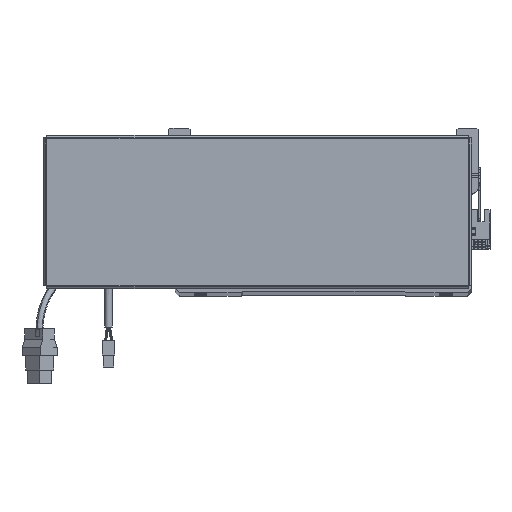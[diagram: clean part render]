
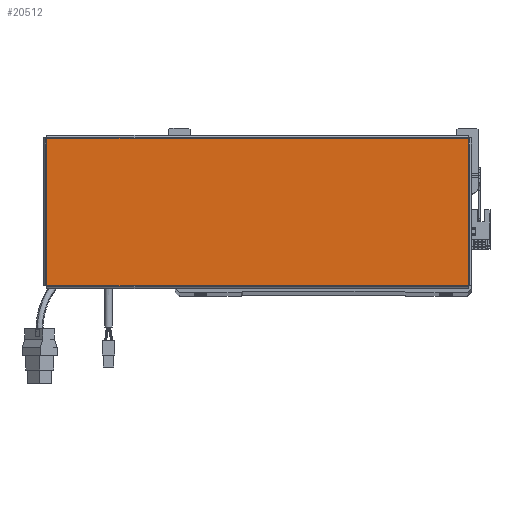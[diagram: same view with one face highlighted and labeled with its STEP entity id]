
A CAD part, top view. The second image highlights one B-rep face of the part: STEP entity #20512.
In plain terms, the highlighted planar face has unit normal (0, 0, 1).
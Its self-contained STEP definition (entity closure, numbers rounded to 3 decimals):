
#2256 = CARTESIAN_POINT ( 'NONE',  ( -156.543, -54.763, 0. ) ) ;
#2961 = LINE ( 'NONE', #67360, #42778 ) ;
#4637 = ORIENTED_EDGE ( 'NONE', *, *, #60618, .T. ) ;
#5176 = DIRECTION ( 'NONE',  ( 0., 1., 0. ) ) ;
#5190 = ORIENTED_EDGE ( 'NONE', *, *, #73170, .T. ) ;
#6518 = FACE_OUTER_BOUND ( 'NONE', #27618, .T. ) ;
#7153 = ORIENTED_EDGE ( 'NONE', *, *, #52079, .T. ) ;
#8399 = VECTOR ( 'NONE', #5176, 1000. ) ;
#11114 = AXIS2_PLACEMENT_3D ( 'NONE', #24754, #12897, #30737 ) ;
#12897 = DIRECTION ( 'NONE',  ( 0., 0., 1. ) ) ;
#13330 = CARTESIAN_POINT ( 'NONE',  ( -156.513, 54.763, 0. ) ) ;
#15996 = CARTESIAN_POINT ( 'NONE',  ( 156.513, -54.763, 0. ) ) ;
#17538 = CARTESIAN_POINT ( 'NONE',  ( -156.513, 54.793, 0. ) ) ;
#19313 = DIRECTION ( 'NONE',  ( 1., 0., 0. ) ) ;
#20512 = ADVANCED_FACE ( 'NONE', ( #6518 ), #64588, .T. ) ;
#23731 = LINE ( 'NONE', #2256, #73285 ) ;
#24332 = VERTEX_POINT ( 'NONE', #45471 ) ;
#24754 = CARTESIAN_POINT ( 'NONE',  ( 0., 0., 0. ) ) ;
#27618 = EDGE_LOOP ( 'NONE', ( #7153, #5190, #35370, #4637 ) ) ;
#30737 = DIRECTION ( 'NONE',  ( 1., 0., 0. ) ) ;
#35370 = ORIENTED_EDGE ( 'NONE', *, *, #70384, .T. ) ;
#39554 = CARTESIAN_POINT ( 'NONE',  ( 156.513, -54.793, 0. ) ) ;
#41165 = VERTEX_POINT ( 'NONE', #13330 ) ;
#42778 = VECTOR ( 'NONE', #68330, 1000. ) ;
#43001 = VERTEX_POINT ( 'NONE', #15996 ) ;
#45471 = CARTESIAN_POINT ( 'NONE',  ( 156.513, 54.763, 0. ) ) ;
#50917 = VERTEX_POINT ( 'NONE', #55176 ) ;
#52079 = EDGE_CURVE ( 'NONE', #50917, #43001, #23731, .T. ) ;
#53552 = LINE ( 'NONE', #39554, #8399 ) ;
#55176 = CARTESIAN_POINT ( 'NONE',  ( -156.513, -54.763, 0. ) ) ;
#56802 = DIRECTION ( 'NONE',  ( 0., -1., 0. ) ) ;
#60618 = EDGE_CURVE ( 'NONE', #41165, #50917, #70638, .T. ) ;
#63536 = VECTOR ( 'NONE', #56802, 1000. ) ;
#64588 = PLANE ( 'NONE',  #11114 ) ;
#67360 = CARTESIAN_POINT ( 'NONE',  ( 156.543, 54.763, 0. ) ) ;
#68330 = DIRECTION ( 'NONE',  ( -1., 0., 0. ) ) ;
#70384 = EDGE_CURVE ( 'NONE', #24332, #41165, #2961, .T. ) ;
#70638 = LINE ( 'NONE', #17538, #63536 ) ;
#73170 = EDGE_CURVE ( 'NONE', #43001, #24332, #53552, .T. ) ;
#73285 = VECTOR ( 'NONE', #19313, 1000. ) ;
